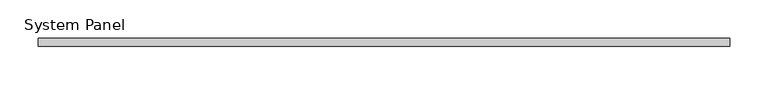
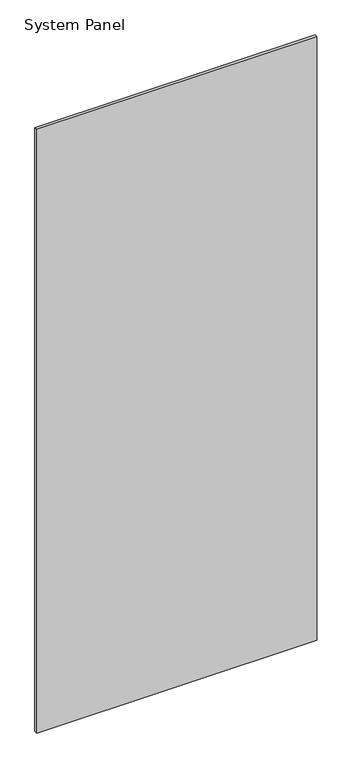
"""IFC4 building model written with IfcOpenShell, lengths in millimetres: plate geometry, System Panel : стекло_смещение_0."""

from ifc_helpers import new_model, si_unit, origin, origin_with_axes, place, context, project, spatial, polyline, outline, extrude, source, transform, mapped, element, save


def system_panel_b861a559(model_context):
    return source(origin(), model_context, "Body", "SweptSolid", [
        extrude(outline(polyline([(450.0, -5.0), (-450.0, -5.0), (-450.0, 5.0), (450.0, 5.0), (450.0, -5.0)])), origin_with_axes(), (0.0, 0.0, 1.0), 2050.0),
    ])


if __name__ == "__main__":
    model = new_model("IFC4")
    model_context = context("Model", 3, world=origin())
    ifc_project = project(units=[si_unit("LENGTHUNIT", "METRE", prefix="MILLI")], contexts=[model_context])
    site = spatial("IfcSite", under=ifc_project)
    building = spatial("IfcBuilding", under=site)
    placement = place(None, origin())
    system_panel_shape = system_panel_b861a559(model_context)
    element("IfcPlate", 1, ObjectType="System Panel : стекло_смещение_0", at=placement, inside=building, context=model_context, shape_type="MappedRepresentation", body=[
        mapped(system_panel_shape, transform((0.0, 0.0, 0.0), x_axis=(1.0, 0.0, 0.0), y_axis=(0.0, 1.0, 0.0), z_axis=(0.0, 0.0, 1.0))),
    ])
    save(model, "model.ifc")
